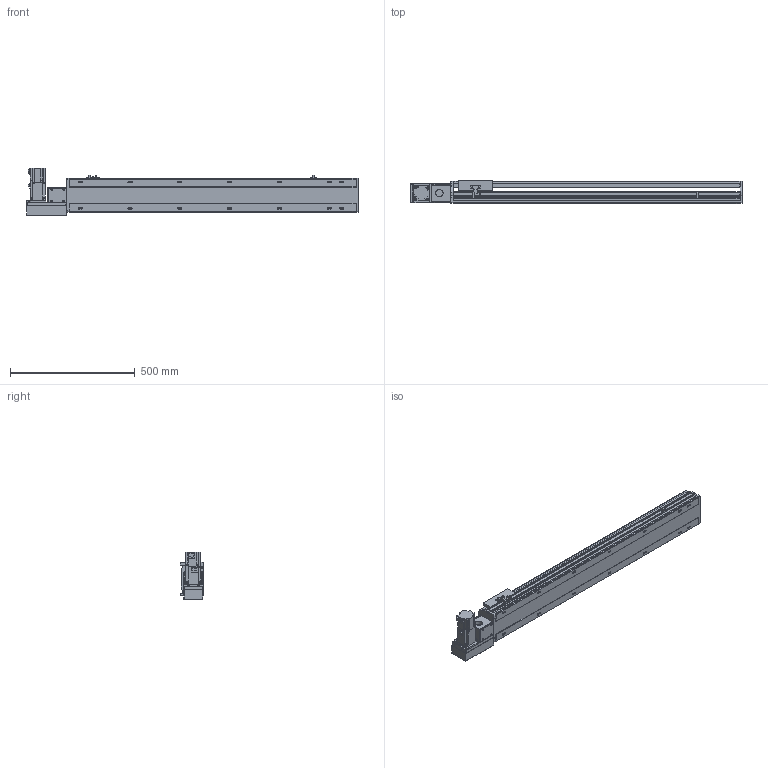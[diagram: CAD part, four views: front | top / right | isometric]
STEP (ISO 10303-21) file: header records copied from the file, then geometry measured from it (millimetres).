
FILE_DESCRIPTION(/* description */ ('STEP AP214'),/* implementation_level */ '2;1');
FILE_NAME(/* name */ 'PBS140S-P40-S900-L-T40-C1-N(0)',/* time_stamp */ '2022-06-09T02:01:17+02:00',/* author */ ('License CC BY-ND 4.0'),/* organization */ ('CADENAS'),/* preprocessor_version */ 'ST-DEVELOPER v18.102',/* originating_system */ 'PARTsolutions',/* authorisation */ ' ');
FILE_SCHEMA (('AUTOMOTIVE_DESIGN {1 0 10303 214 3 1 1}'));
Length unit declared in the file: millimetre
Products named in the file (7): PBS140S-P40-S900-L-T40-C1-N(0); PBS140S_sensor; PBS140S_plant; PBS140S_sliser; T40-p1; PBS140ST-L_motors; PBS140S-S900()_body
Assembly tree (8 placements, depth 2):
  PBS140S-P40-S900-L-T40-C1-N(0)
    PBS140S_sensor  x3
    PBS140S_plant
    PBS140S_sliser
    T40-p1
    PBS140ST-L_motors
    PBS140S-S900()_body
Bounding box: 1333 x 93 x 189.7 mm (x, y, z)
Volume: 6582528.2 mm3; surface area: 1145218.8 mm2
Topology: 8 solids, 8 shells, 1083 faces, 2871 edges, 1879 vertices
Faces by surface type: plane 696, cylinder 337, cone 40, sphere 8, torus 2
Full cylindrical faces by diameter (mm): 3.242 x4, 4 x2, 4.134 x4, 4.4 x8, 4.5 x2, 4.8 x4, 4.917 x22, 5.5 x7, 6 x2, 7 x16, 7.5 x8, 8 x12, 8.5 x4, 10.5 x14, 14 x1, 30 x2, 50 x2
Entity records: 31038 total; most frequent: CARTESIAN_POINT 5704, DIRECTION 5278, ORIENTED_EDGE 5002, EDGE_CURVE 2501, AXIS2_PLACEMENT_3D 1829, VERTEX_POINT 1729, LINE 1620, VECTOR 1620
